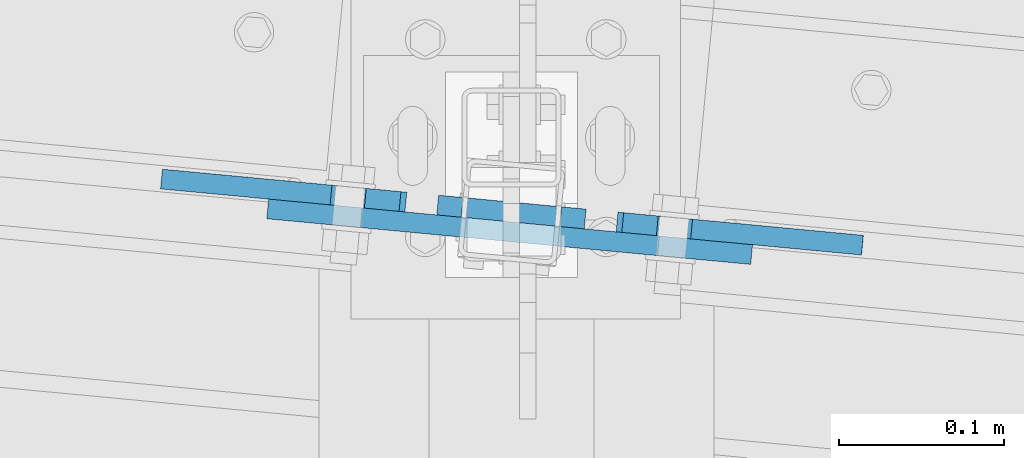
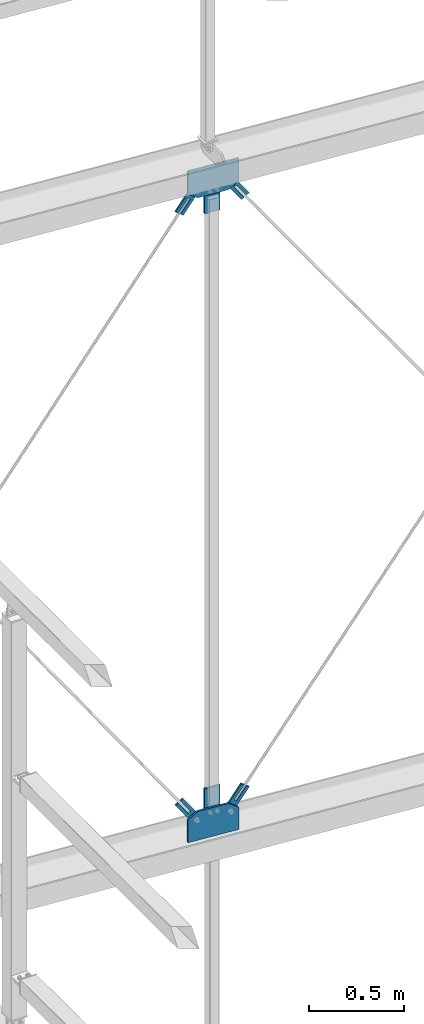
# One storey, part 152 of 271: 8 plates, 7 elements without a shape of their own.
"""IFC2X3 building model written with IfcOpenShell, lengths in millimetres."""

from ifc_helpers import new_model, si_unit, frame, origin_with_axes, place, context, subcontext, project, spatial, polyline, outline, extrude, material, type_object, element, aggregate, save


model = new_model("IFC2X3")

# Units and contexts
model_context = context("Model", 3, precision=1e-05, world=origin_with_axes())
body_context = subcontext(model_context, "Body", "Model", "MODEL_VIEW")
ifc_project = project(units=[si_unit("LENGTHUNIT", "METRE", prefix="MILLI"), si_unit("AREAUNIT", "SQUARE_METRE"), si_unit("VOLUMEUNIT", "CUBIC_METRE"), si_unit("MASSUNIT", "GRAM", prefix="KILO"), si_unit("TIMEUNIT", "SECOND"), si_unit("PLANEANGLEUNIT", "RADIAN"), si_unit("SOLIDANGLEUNIT", "STERADIAN"), si_unit("THERMODYNAMICTEMPERATUREUNIT", "DEGREE_CELSIUS"), si_unit("LUMINOUSINTENSITYUNIT", "LUMEN")], contexts=[model_context])

# Site, building, storey
site_placement = place(None, origin_with_axes())
site = spatial("IfcSite", under=ifc_project, at=site_placement, Name="Undefined", CompositionType="ELEMENT")
building_placement = place(site_placement, origin_with_axes())
building = spatial("IfcBuilding", under=site, at=building_placement, Name="Undefined", CompositionType="ELEMENT")
storey_placement = place(building_placement, origin_with_axes())
storey = spatial("IfcBuildingStorey", under=building, at=storey_placement, Name="Undefined", CompositionType="ELEMENT", Elevation=0.0)

# Assembly, plate
assembly_1_placement = place(storey_placement, origin_with_axes())
assembly_1 = element("IfcElementAssembly", 1, at=assembly_1_placement, inside=storey, AssemblyPlace="NOTDEFINED", PredefinedType="RIGID_FRAME")
ifc_material = material(Name="STEEL/S355JR")
plate_type_1 = type_object("IfcPlateType", Name="BL12*56", PredefinedType="NOTDEFINED")
plate_1_placement = place(assembly_1_placement, frame((3058.7761242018, 4015.45365303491, 18537.31654443), z_axis=(0.0938759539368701, 0.995583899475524, -6.61630780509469e-05), x_axis=(0.981354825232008, -0.0925230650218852, 0.16847014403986)))
plate_1 = element("IfcPlate", 2, at=plate_1_placement, type_object=plate_type_1, material=ifc_material, Name="BLACHA", ObjectType="BL12*56", context=body_context, shape_type="SweptSolid", body=[
    extrude(outline(polyline([(0.0, 0.0), (21.2132034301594, 1.09139364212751e-11), (39.5644226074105, 18.3512210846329), (39.5644226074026, 39.5644226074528), (-87.0076904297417, 166.136535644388), (-100.796272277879, 152.347961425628), (-30.0855941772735, 81.6372756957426), (-42.0728530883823, 69.6500167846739), (-112.783531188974, 140.36070251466), (-126.57211303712, 126.57211303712), (0.0, 0.0)])), frame((0.0, 0.0, -6.0), z_axis=(0.0, 0.0, 1.0), x_axis=(1.0, 0.0, 0.0)), (0.0, 0.0, 1.0), 12.0),
])
aggregate(assembly_1, [plate_1])

assembly_2_placement = place(storey_placement, origin_with_axes())
assembly_2 = element("IfcElementAssembly", 3, at=assembly_2_placement, inside=storey, AssemblyPlace="NOTDEFINED", PredefinedType="RIGID_FRAME")
plate_2_placement = place(assembly_2_placement, frame((3232.51433755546, 3999.06292104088, 18506.2370451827), z_axis=(0.0939660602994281, 0.995575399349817, -6.10020992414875e-05), x_axis=(0.162762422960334, -0.0153016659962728, 0.986546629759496)))
plate_2 = element("IfcPlate", 4, at=plate_2_placement, type_object=plate_type_1, material=ifc_material, Name="BLACHA", ObjectType="BL12*56", context=body_context, shape_type="SweptSolid", body=[
    extrude(outline(polyline([(0.0, 0.0), (21.2132034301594, 1.09139364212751e-11), (39.5646629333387, 18.3514595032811), (39.5646629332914, 39.564662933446), (-87.007453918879, 166.136779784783), (-100.796035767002, 152.34819030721), (-30.0853557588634, 81.6375198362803), (-42.0728530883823, 69.6500167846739), (-112.783531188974, 140.36070251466), (-126.57211303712, 126.57211303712), (0.0, 0.0)])), frame((0.0, 0.0, -6.0), z_axis=(0.0, 0.0, 1.0), x_axis=(1.0, 0.0, 0.0)), (0.0, 0.0, 1.0), 12.0),
])
aggregate(assembly_2, [plate_2])

assembly_3_placement = place(storey_placement, origin_with_axes())
assembly_3 = element("IfcElementAssembly", 5, at=assembly_3_placement, inside=storey, AssemblyPlace="NOTDEFINED", PredefinedType="RIGID_FRAME")
plate_3_placement = place(assembly_3_placement, frame((3277.79825386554, 3994.80607873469, 14429.6890327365), z_axis=(0.0939661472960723, 0.995575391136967, 6.10312016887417e-05), x_axis=(-0.982298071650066, 0.0927229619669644, -0.162766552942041)))
plate_3 = element("IfcPlate", 6, at=plate_3_placement, type_object=plate_type_1, material=ifc_material, Name="BLACHA", ObjectType="BL12*56", context=body_context, shape_type="SweptSolid", body=[
    extrude(outline(polyline([(0.0, 0.0), (21.2132034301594, 1.09139364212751e-11), (39.5647087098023, 18.3515052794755), (39.5647087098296, 39.5647087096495), (-87.0074157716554, 166.136810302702), (-100.795997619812, 152.348236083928), (-30.0853214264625, 81.6375503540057), (-42.0728530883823, 69.6500167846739), (-112.783531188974, 140.36070251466), (-126.57211303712, 126.57211303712), (0.0, 0.0)])), frame((0.0, 0.0, -6.0), z_axis=(0.0, 0.0, 1.0), x_axis=(1.0, 0.0, 0.0)), (0.0, 0.0, 1.0), 12.0),
])
aggregate(assembly_3, [plate_3])

assembly_4_placement = place(storey_placement, origin_with_axes())
assembly_4 = element("IfcElementAssembly", 7, at=assembly_4_placement, inside=storey, AssemblyPlace="NOTDEFINED", PredefinedType="RIGID_FRAME")
plate_4_placement = place(assembly_4_placement, frame((3104.23941448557, 4011.1798845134, 14463.7182454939), z_axis=(0.0938759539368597, 0.995583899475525, 6.61630780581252e-05), x_axis=(-0.167720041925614, 0.0158802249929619, -0.985706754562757)))
plate_4 = element("IfcPlate", 8, at=plate_4_placement, type_object=plate_type_1, material=ifc_material, Name="BLACHA", ObjectType="BL12*56", context=body_context, shape_type="SweptSolid", body=[
    extrude(outline(polyline([(0.0, 0.0), (21.2132034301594, 1.09139364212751e-11), (39.564743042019, 18.3515396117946), (39.5647430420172, 39.5647430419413), (-87.0073471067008, 166.13687133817), (-100.795928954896, 152.348297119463), (-30.0852527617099, 81.637619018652), (-42.0728530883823, 69.6500167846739), (-112.783531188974, 140.36070251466), (-126.57211303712, 126.57211303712), (0.0, 0.0)])), frame((0.0, 0.0, -6.0), z_axis=(0.0, 0.0, 1.0), x_axis=(1.0, 0.0, 0.0)), (0.0, 0.0, 1.0), 12.0),
])
aggregate(assembly_4, [plate_4])

# Assembly, plates
assembly_5_placement = place(storey_placement, origin_with_axes())
assembly_5 = element("IfcElementAssembly", 9, at=assembly_5_placement, inside=storey, AssemblyPlace="NOTDEFINED", PredefinedType="RIGID_FRAME")
plate_type_2 = type_object("IfcPlateType", Name="BL12*90", PredefinedType="NOTDEFINED")
plate_5_placement = place(assembly_5_placement, frame((3123.55446880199, 4009.33800990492, 18491.0385406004), z_axis=(0.0939225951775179, 0.99557950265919, -3.73312492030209e-15), x_axis=(0.703981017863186, -0.0664133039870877, 0.707106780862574)))
plate_5 = element("IfcPlate", 10, at=plate_5_placement, type_object=plate_type_2, material=ifc_material, Name="BLACHA", ObjectType="BL12*90", context=body_context, shape_type="SweptSolid", body=[
    extrude(outline(polyline([(0.0, 0.0), (21.2132034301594, 1.09139364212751e-11), (63.6396102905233, 42.4264068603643), (63.6396102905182, 63.6396102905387), (-48.7903671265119, 176.069595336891), (-59.0431632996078, 165.816787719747), (-102.177185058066, 122.682769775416), (-112.42997741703, 112.429977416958), (0.0, 0.0)])), frame((0.0, 0.0, -6.0), z_axis=(0.0, 0.0, 1.0), x_axis=(1.0, 0.0, 0.0)), (0.0, 0.0, 1.0), 12.0),
])
plate_6_placement = place(assembly_5_placement, frame((3213.15804733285, 4000.90006322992, 14477.6626188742), z_axis=(0.0939225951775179, 0.99557950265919, -3.73312492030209e-15), x_axis=(-0.703981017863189, 0.0664133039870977, -0.707106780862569)))
plate_6 = element("IfcPlate", 11, at=plate_6_placement, type_object=plate_type_2, material=ifc_material, Name="BLACHA", ObjectType="BL12*90", context=body_context, shape_type="SweptSolid", body=[
    extrude(outline(polyline([(0.0, 0.0), (21.2132034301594, 1.09139364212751e-11), (63.6396102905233, 42.4264068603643), (63.6396102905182, 63.6396102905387), (-48.7903671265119, 176.069595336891), (-59.0431632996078, 165.816787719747), (-112.42997741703, 112.429977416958), (0.0, 0.0)])), frame((0.0, 0.0, -6.0), z_axis=(0.0, 0.0, 1.0), x_axis=(1.0, 0.0, 0.0)), (0.0, 0.0, 1.0), 12.0),
])
aggregate(assembly_5, [plate_5, plate_6])

# Assembly, plate
assembly_6_placement = place(storey_placement, origin_with_axes())
assembly_6 = element("IfcElementAssembly", 12, at=assembly_6_placement, inside=storey, AssemblyPlace="NOTDEFINED", PredefinedType="RIGID_FRAME")
plate_type_3 = type_object("IfcPlateType", Name="BL12*185", PredefinedType="NOTDEFINED")
plate_7_placement = place(assembly_6_placement, frame((3020.29991669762, 4007.02572392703, 18641.0499999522), z_axis=(0.0939225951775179, 0.99557950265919, -3.73312492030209e-15), x_axis=(0.995579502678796, -0.0939225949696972, 0.0)))
plate_7 = element("IfcPlate", 13, at=plate_7_placement, type_object=plate_type_3, material=ifc_material, Name="BLACHA", ObjectType="BL12*185", context=body_context, shape_type="SweptSolid", body=[
    extrude(outline(polyline([(0.0, 0.0), (295.245025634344, 0.0), (295.245025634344, 142.885437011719), (238.32160949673, 183.625152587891), (197.581893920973, 185.011474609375), (57.1288414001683, 185.011474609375), (1.2732925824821e-11, 144.560317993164), (0.0, 0.0)])), frame((0.0, 0.0, -6.0), z_axis=(0.0, 0.0, 1.0), x_axis=(1.0, 0.0, 0.0)), (0.0, 0.0, 1.0), 12.0),
])
aggregate(assembly_6, [plate_7])

assembly_7_placement = place(storey_placement, origin_with_axes())
assembly_7 = element("IfcElementAssembly", 14, at=assembly_7_placement, inside=storey, AssemblyPlace="NOTDEFINED", PredefinedType="RIGID_FRAME")
plate_8_placement = place(assembly_7_placement, frame((3314.25367310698, 3979.30945850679, 14327.6499998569), z_axis=(0.0939225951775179, 0.99557950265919, -3.73312492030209e-15), x_axis=(-0.995579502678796, 0.0939225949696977, 0.0)))
plate_8 = element("IfcPlate", 15, at=plate_8_placement, type_object=plate_type_3, material=ifc_material, Name="BLACHA", ObjectType="BL12*185", context=body_context, shape_type="SweptSolid", body=[
    extrude(outline(polyline([(0.0, 0.0), (295.258331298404, 3.63797880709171e-12), (295.258331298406, 144.561477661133), (238.129486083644, 185.012619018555), (97.6748123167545, 185.012619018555), (56.8939399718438, 183.429458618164), (5.45696821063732e-12, 142.648590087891), (0.0, 0.0)])), frame((0.0, 0.0, -6.0), z_axis=(0.0, 0.0, 1.0), x_axis=(1.0, 0.0, 0.0)), (0.0, 0.0, 1.0), 12.0),
])
aggregate(assembly_7, [plate_8])

save(model, "model.ifc")
